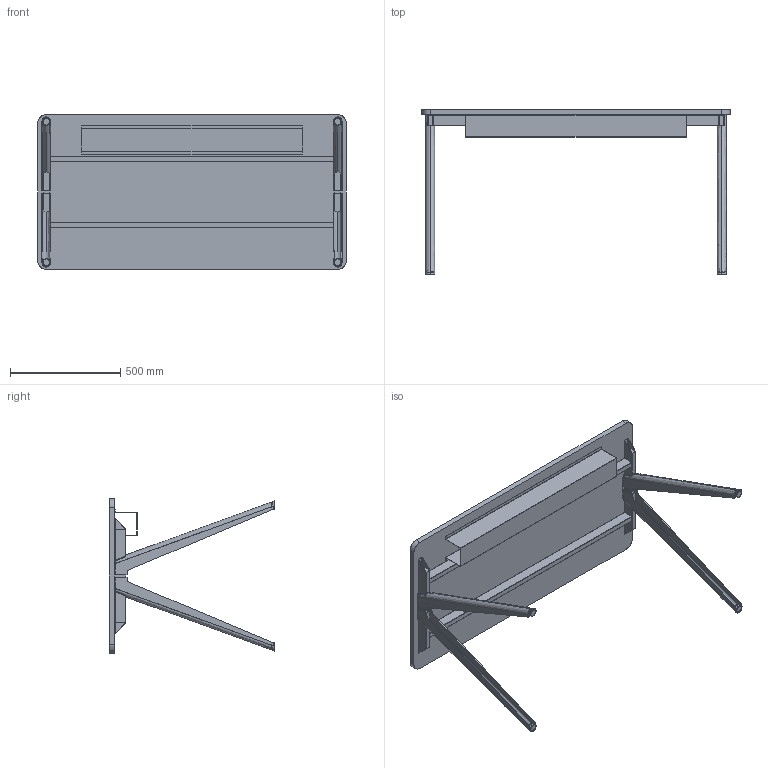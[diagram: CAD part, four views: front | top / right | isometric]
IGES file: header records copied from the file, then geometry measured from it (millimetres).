
Start section: SolidWorks IGES file using analytic representation for surfaces
Global section: file name: C:\Users\simone.cerana\OneDrive - Gruppo Tecno\Desktop\CHINA\DISEGNI DI SERIE\ASSIEMI LISTINO\HORIZON LISTINO\FULL OPTIONAL\HO1407FO.IGS; native system: SolidWorks 2024; preprocessor: SolidWorks 2024; author: simone.cerana; date: 260512.143614; units: millimetre
Bounding box: 1400 x 750.58 x 700 mm (x, y, z)
Surface area: 3825751.9 mm2 (no closed solid volume)
Topology: 0 solids, 0 shells, 292 faces, 3808 edges, 3808 vertices
Faces by surface type: bspline 198, revolution 94
